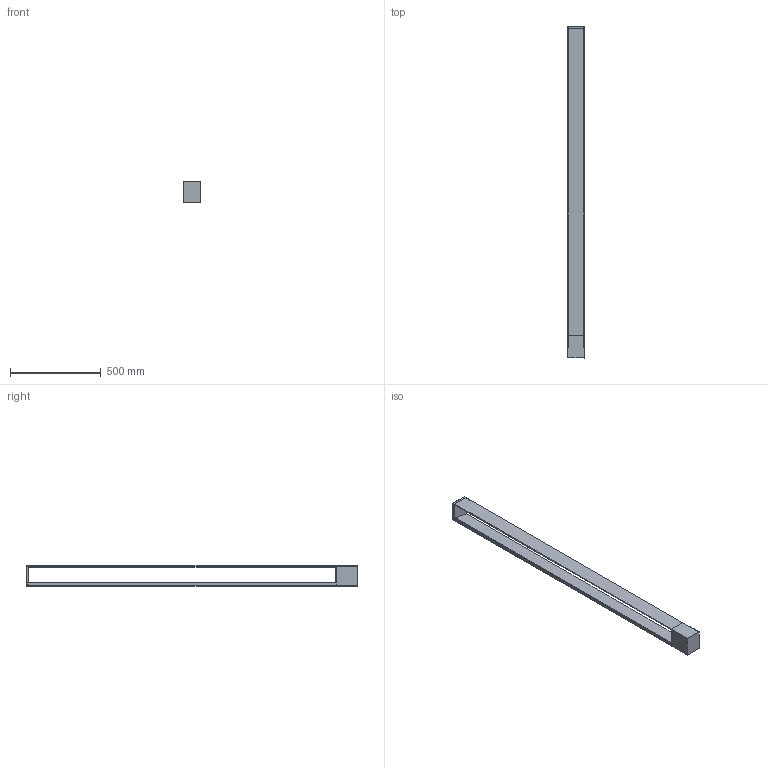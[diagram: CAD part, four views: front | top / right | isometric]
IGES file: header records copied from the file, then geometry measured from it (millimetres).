
Start section: SolidWorks IGES file using analytic representation for surfaces
Global section: file name: C:\Users\tungari.NEMOLIGHTING\Desktop\15_02\FLOOR\3D_TRU_FLOOR\DEFEATURE_3D_TRU_FLOOR\3D_TRU_FLOOR.IGS; native system: SolidWorks 2016; preprocessor: SolidWorks 2016; author: tungari; date: 180219.120648; units: millimetre
Bounding box: 93.2 x 1831.5 x 114.2 mm (x, y, z)
Surface area: 855359.5 mm2 (no closed solid volume)
Topology: 0 solids, 0 shells, 125 faces, 1003 edges, 1003 vertices
Faces by surface type: bspline 93, revolution 32
